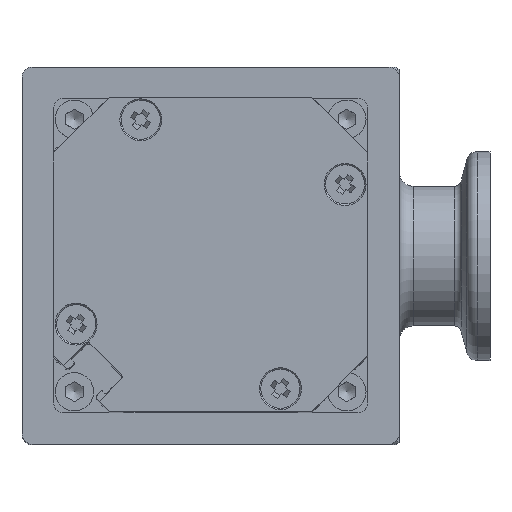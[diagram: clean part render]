
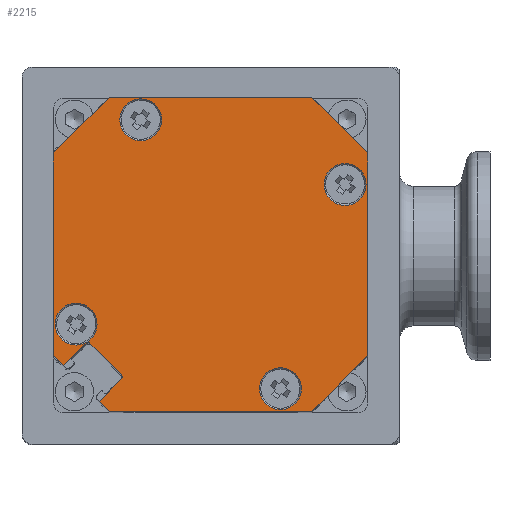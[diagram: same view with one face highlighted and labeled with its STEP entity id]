
A CAD part, top view. The second image highlights one B-rep face of the part: STEP entity #2215.
In plain terms, the highlighted planar face has unit normal (0, 0, 1).
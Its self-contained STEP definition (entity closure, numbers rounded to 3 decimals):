
#1521=PLANE('',#9329);
#2215=ADVANCED_FACE('',(#3889,#3890,#3891,#3892,#3893),#1521,.F.);
#2853=LINE('',#14627,#3361);
#2859=LINE('',#14641,#3367);
#2861=LINE('',#14653,#3369);
#2862=LINE('',#14655,#3370);
#2863=LINE('',#14657,#3371);
#2864=LINE('',#14659,#3372);
#2865=LINE('',#14661,#3373);
#2866=LINE('',#14663,#3374);
#2867=LINE('',#14665,#3375);
#2868=LINE('',#14667,#3376);
#2869=LINE('',#14668,#3377);
#2870=LINE('',#14672,#3378);
#3361=VECTOR('',#11101,1.);
#3367=VECTOR('',#11109,1.);
#3369=VECTOR('',#11121,1.);
#3370=VECTOR('',#11122,1.);
#3371=VECTOR('',#11123,1.);
#3372=VECTOR('',#11124,1.);
#3373=VECTOR('',#11125,1.);
#3374=VECTOR('',#11126,1.);
#3375=VECTOR('',#11127,1.);
#3376=VECTOR('',#11128,1.);
#3377=VECTOR('',#11129,1.);
#3378=VECTOR('',#11132,1.);
#3889=FACE_BOUND('',#4502,.T.);
#3890=FACE_BOUND('',#4503,.T.);
#3891=FACE_BOUND('',#4504,.T.);
#3892=FACE_BOUND('',#4505,.T.);
#3893=FACE_BOUND('',#4506,.T.);
#4502=EDGE_LOOP('',(#6284));
#4503=EDGE_LOOP('',(#6285));
#4504=EDGE_LOOP('',(#6286));
#4505=EDGE_LOOP('',(#6287));
#4506=EDGE_LOOP('',(#6288,#6289,#6290,#6291,#6292,#6293,#6294,#6295,#6296,
#6297,#6298,#6299,#6300,#6301));
#6284=ORIENTED_EDGE('',*,*,#8216,.T.);
#6285=ORIENTED_EDGE('',*,*,#8217,.T.);
#6286=ORIENTED_EDGE('',*,*,#8218,.T.);
#6287=ORIENTED_EDGE('',*,*,#8219,.T.);
#6288=ORIENTED_EDGE('',*,*,#8220,.T.);
#6289=ORIENTED_EDGE('',*,*,#8208,.F.);
#6290=ORIENTED_EDGE('',*,*,#8221,.F.);
#6291=ORIENTED_EDGE('',*,*,#8222,.F.);
#6292=ORIENTED_EDGE('',*,*,#8223,.F.);
#6293=ORIENTED_EDGE('',*,*,#8224,.F.);
#6294=ORIENTED_EDGE('',*,*,#8225,.F.);
#6295=ORIENTED_EDGE('',*,*,#8226,.F.);
#6296=ORIENTED_EDGE('',*,*,#8227,.F.);
#6297=ORIENTED_EDGE('',*,*,#8214,.F.);
#6298=ORIENTED_EDGE('',*,*,#8228,.T.);
#6299=ORIENTED_EDGE('',*,*,#8229,.T.);
#6300=ORIENTED_EDGE('',*,*,#8230,.T.);
#6301=ORIENTED_EDGE('',*,*,#8231,.T.);
#7253=VERTEX_POINT('',#14628);
#7254=VERTEX_POINT('',#14629);
#7259=VERTEX_POINT('',#14640);
#7260=VERTEX_POINT('',#14642);
#7261=VERTEX_POINT('',#14646);
#7262=VERTEX_POINT('',#14648);
#7263=VERTEX_POINT('',#14650);
#7264=VERTEX_POINT('',#14652);
#7265=VERTEX_POINT('',#14654);
#7266=VERTEX_POINT('',#14656);
#7267=VERTEX_POINT('',#14658);
#7268=VERTEX_POINT('',#14660);
#7269=VERTEX_POINT('',#14662);
#7270=VERTEX_POINT('',#14664);
#7271=VERTEX_POINT('',#14666);
#7272=VERTEX_POINT('',#14669);
#7273=VERTEX_POINT('',#14671);
#7274=VERTEX_POINT('',#14673);
#8208=EDGE_CURVE('',#7253,#7254,#2853,.T.);
#8214=EDGE_CURVE('',#7259,#7260,#2859,.T.);
#8216=EDGE_CURVE('',#7261,#7261,#8651,.T.);
#8217=EDGE_CURVE('',#7262,#7262,#8652,.T.);
#8218=EDGE_CURVE('',#7263,#7263,#8653,.T.);
#8219=EDGE_CURVE('',#7264,#7264,#8654,.T.);
#8220=EDGE_CURVE('',#7265,#7254,#2861,.T.);
#8221=EDGE_CURVE('',#7266,#7253,#2862,.T.);
#8222=EDGE_CURVE('',#7267,#7266,#2863,.T.);
#8223=EDGE_CURVE('',#7268,#7267,#2864,.T.);
#8224=EDGE_CURVE('',#7269,#7268,#2865,.T.);
#8225=EDGE_CURVE('',#7270,#7269,#2866,.T.);
#8226=EDGE_CURVE('',#7271,#7270,#2867,.T.);
#8227=EDGE_CURVE('',#7260,#7271,#2868,.T.);
#8228=EDGE_CURVE('',#7259,#7272,#2869,.T.);
#8229=EDGE_CURVE('',#7272,#7273,#8655,.T.);
#8230=EDGE_CURVE('',#7273,#7274,#2870,.T.);
#8231=EDGE_CURVE('',#7274,#7265,#8656,.T.);
#8651=CIRCLE('',#9323,3.);
#8652=CIRCLE('',#9324,3.);
#8653=CIRCLE('',#9325,3.);
#8654=CIRCLE('',#9326,3.);
#8655=CIRCLE('',#9327,0.4);
#8656=CIRCLE('',#9328,0.4);
#9323=AXIS2_PLACEMENT_3D('',#14645,#11113,#11114);
#9324=AXIS2_PLACEMENT_3D('',#14647,#11115,#11116);
#9325=AXIS2_PLACEMENT_3D('',#14649,#11117,#11118);
#9326=AXIS2_PLACEMENT_3D('',#14651,#11119,#11120);
#9327=AXIS2_PLACEMENT_3D('',#14670,#11130,#11131);
#9328=AXIS2_PLACEMENT_3D('',#14674,#11133,#11134);
#9329=AXIS2_PLACEMENT_3D('',#14675,#11135,#11136);
#11101=DIRECTION('',(0.707,-0.707,0.));
#11109=DIRECTION('',(0.707,-0.707,0.));
#11113=DIRECTION('',(0.,0.,-1.));
#11114=DIRECTION('',(-1.,0.,0.));
#11115=DIRECTION('',(0.,0.,-1.));
#11116=DIRECTION('',(-1.,0.,0.));
#11117=DIRECTION('',(0.,0.,-1.));
#11118=DIRECTION('',(-1.,0.,0.));
#11119=DIRECTION('',(0.,0.,-1.));
#11120=DIRECTION('',(-1.,0.,0.));
#11121=DIRECTION('',(0.707,0.707,0.));
#11122=DIRECTION('',(1.,0.,0.));
#11123=DIRECTION('',(0.707,0.707,0.));
#11124=DIRECTION('',(0.,1.,0.));
#11125=DIRECTION('',(-0.707,0.707,0.));
#11126=DIRECTION('',(-1.,0.,0.));
#11127=DIRECTION('',(-0.707,-0.707,0.));
#11128=DIRECTION('',(0.,-1.,0.));
#11129=DIRECTION('',(-0.707,-0.707,0.));
#11130=DIRECTION('',(0.,0.,-1.));
#11131=DIRECTION('',(1.,0.,0.));
#11132=DIRECTION('',(-0.707,0.707,0.));
#11133=DIRECTION('',(0.,0.,-1.));
#11134=DIRECTION('',(0.,1.,0.));
#11135=DIRECTION('',(0.,0.,-1.));
#11136=DIRECTION('',(-1.,0.,0.));
#14627=CARTESIAN_POINT('',(14.5,22.5,3.));
#14628=CARTESIAN_POINT('',(14.5,22.5,3.));
#14629=CARTESIAN_POINT('',(15.972,21.028,3.));
#14640=CARTESIAN_POINT('',(21.028,15.972,3.));
#14641=CARTESIAN_POINT('',(14.5,22.5,3.));
#14642=CARTESIAN_POINT('',(22.5,14.5,3.));
#14645=CARTESIAN_POINT('',(19.25,10.,3.));
#14646=CARTESIAN_POINT('',(16.25,10.,3.));
#14647=CARTESIAN_POINT('',(-10.,19.25,3.));
#14648=CARTESIAN_POINT('',(-13.,19.25,3.));
#14649=CARTESIAN_POINT('',(-19.25,-10.,3.));
#14650=CARTESIAN_POINT('',(-22.25,-10.,3.));
#14651=CARTESIAN_POINT('',(10.,-19.25,3.));
#14652=CARTESIAN_POINT('',(7.,-19.25,3.));
#14653=CARTESIAN_POINT('',(12.781,17.837,3.));
#14654=CARTESIAN_POINT('',(12.781,17.837,3.));
#14655=CARTESIAN_POINT('',(-14.5,22.5,3.));
#14656=CARTESIAN_POINT('',(-14.5,22.5,3.));
#14657=CARTESIAN_POINT('',(-22.5,14.5,3.));
#14658=CARTESIAN_POINT('',(-22.5,14.5,3.));
#14659=CARTESIAN_POINT('',(-22.5,-14.5,3.));
#14660=CARTESIAN_POINT('',(-22.5,-14.5,3.));
#14661=CARTESIAN_POINT('',(-14.5,-22.5,3.));
#14662=CARTESIAN_POINT('',(-14.5,-22.5,3.));
#14663=CARTESIAN_POINT('',(14.5,-22.5,3.));
#14664=CARTESIAN_POINT('',(14.5,-22.5,3.));
#14665=CARTESIAN_POINT('',(22.5,-14.5,3.));
#14666=CARTESIAN_POINT('',(22.5,-14.5,3.));
#14667=CARTESIAN_POINT('',(22.5,14.5,3.));
#14668=CARTESIAN_POINT('',(21.028,15.972,3.));
#14669=CARTESIAN_POINT('',(17.837,12.781,3.));
#14670=CARTESIAN_POINT('',(17.554,13.064,3.));
#14671=CARTESIAN_POINT('',(17.271,12.781,3.));
#14672=CARTESIAN_POINT('',(17.271,12.781,3.));
#14673=CARTESIAN_POINT('',(12.781,17.271,3.));
#14674=CARTESIAN_POINT('',(13.064,17.554,3.));
#14675=CARTESIAN_POINT('',(22.5,-22.5,3.));
